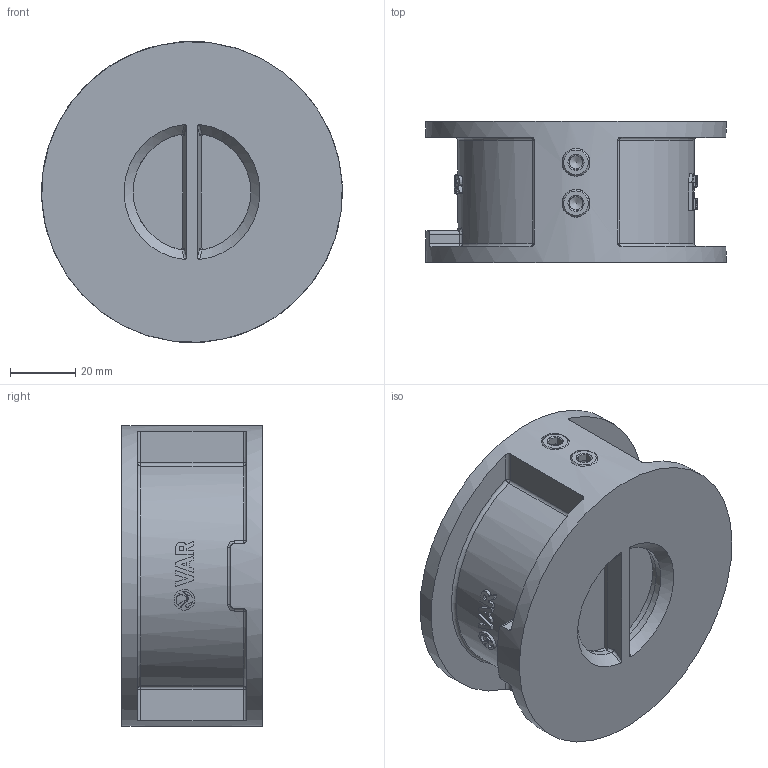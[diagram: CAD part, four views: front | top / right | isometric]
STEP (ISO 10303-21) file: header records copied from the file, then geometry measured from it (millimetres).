
FILE_DESCRIPTION(('STEP AP203'), '1');
FILE_NAME('VAR ZETKA 钺疣蝽 觌囡囗', '', ('UNSPECIFIED'), ('UNSPECIFIED'), 'C3D Converter', 'C3D Toolkit', '');
FILE_SCHEMA(('CONFIG_CONTROL_DESIGN'));
Length unit declared in the file: millimetre
Assembly tree (18 placements, depth 2):
  (unnamed)
    (unnamed)
    (unnamed)  x2
    (unnamed)  x4
    (unnamed)
    (unnamed)  x2
    (unnamed)  x2
    (unnamed)  x2
    (unnamed)  x2
    (unnamed)  x2
Bounding box: 91.91 x 43 x 92 mm (x, y, z)
Volume: 133392.7 mm3; surface area: 59287.7 mm2
Topology: 32 solids, 32 shells, 538 faces, 1335 edges, 867 vertices
Faces by surface type: plane 249, cylinder 115, extrusion 110, cone 22, bspline 20, torus 12, sphere 10
Full cylindrical faces by diameter (mm): 1.5 x2, 4 x4, 5 x8, 6.316 x1, 7.65 x16, 8.5 x8, 10.65 x6, 54 x1, 58 x2, 92 x1
Entity records: 26573 total; most frequent: CARTESIAN_POINT 14471, ORIENTED_EDGE 1984, DIRECTION 1600, EDGE_CURVE 992, VERTEX_POINT 669, AXIS2_PLACEMENT_3D 542, VECTOR 516, EDGE_LOOP 509
